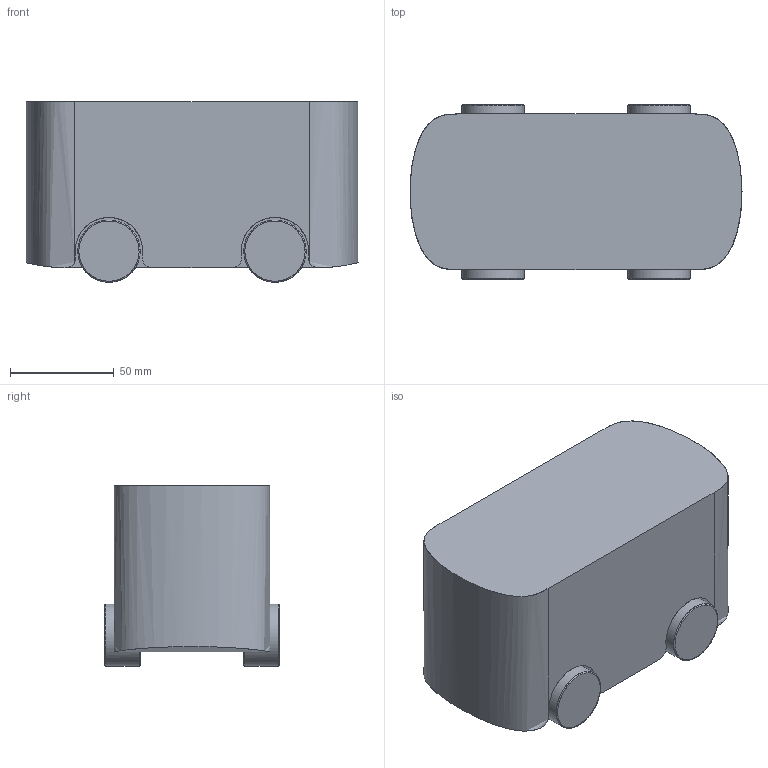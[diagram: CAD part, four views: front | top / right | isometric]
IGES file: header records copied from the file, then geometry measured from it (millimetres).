
Global section: file name: F:\100% TOBEUS\pacchetto TobeUs\TobeUs\TobeUs_3D_3dm.igs; native system: Rhinoceros ( Jan 18 2007 ); preprocessor: Trout Lake IGES 012 Jan 18 2007; date: 120605.101314; units: millimetre
Bounding box: 160 x 84 x 87 mm (x, y, z)
Surface area: 73747.2 mm2 (no closed solid volume)
Topology: 0 solids, 0 shells, 60 faces, 810 edges, 780 vertices
Faces by surface type: bspline 60
